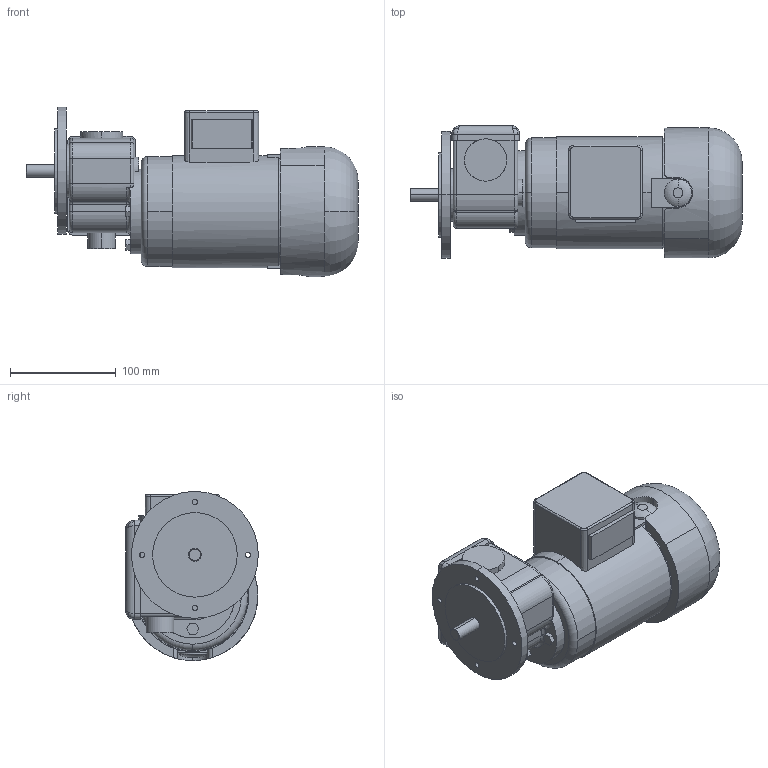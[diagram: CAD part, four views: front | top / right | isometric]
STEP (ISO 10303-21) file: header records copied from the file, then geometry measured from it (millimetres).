
FILE_DESCRIPTION(('OneSpaceDesigner STEP Export'),'2;1');
FILE_NAME('KGOG61-62_GF23_N.stp','2008-08-21T 8:29:58',(''),(''),'OneSpace Designer STEP processor (Jan. 2003) for AP214(CD)(Solid Model)','OneSpace Designer 12.01D 09-Jul-2004 (C) CoCreate Software GmbH','');
FILE_SCHEMA(('AUTOMOTIVE_DESIGN_CC2 {1 2 10303 214 -1 1 5 1}'));
Length unit declared in the file: millimetre
Products named in the file (2): KGOG61-62_GF23_N
Assembly tree (1 placements, depth 2):
  KGOG61-62_GF23_N
    KGOG61-62_GF23_N
Bounding box: 314 x 125.5 x 160 mm (x, y, z)
Volume: 2845581.6 mm3; surface area: 163829.6 mm2
Topology: 1 solids, 1 shells, 183 faces, 459 edges, 289 vertices
Faces by surface type: cylinder 71, plane 65, bspline 20, torus 20, extrusion 4, cone 2, sphere 1
Entity records: 10131 total; most frequent: CARTESIAN_POINT 6094, ORIENTED_EDGE 916, DIRECTION 678, EDGE_CURVE 458, VERTEX_POINT 289, AXIS2_PLACEMENT_3D 234, VECTOR 210, LINE 206
